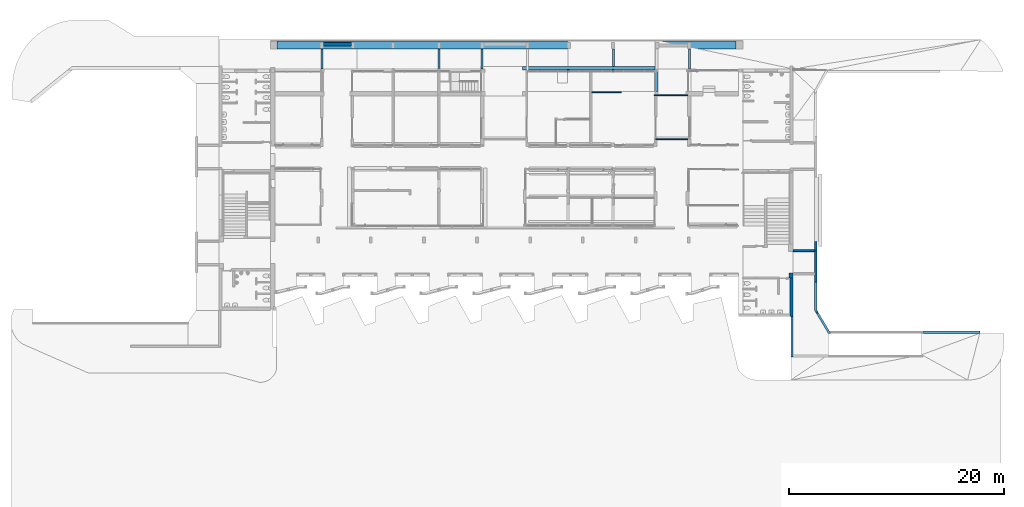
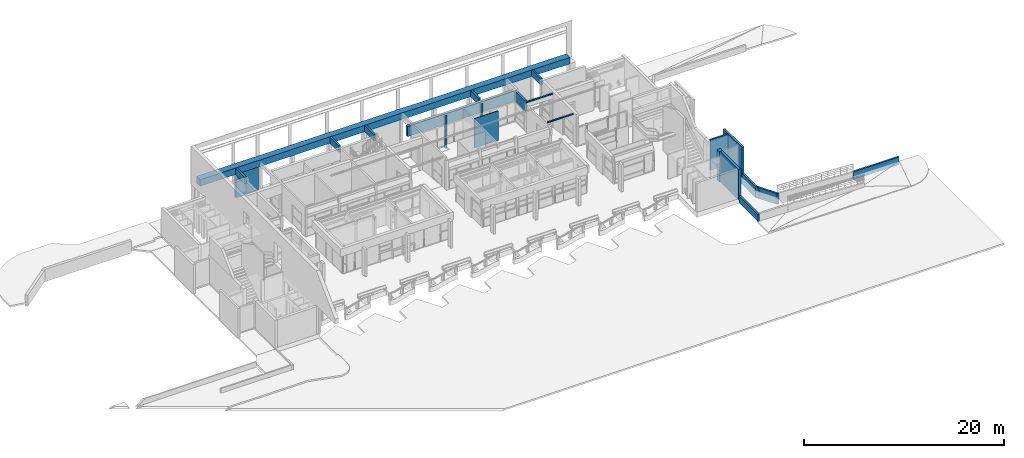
# One storey, part 69 of 117: 22 walls.
"""IFC4 building model written with IfcOpenShell, lengths in metres."""

import ifcopenshell
import ifcopenshell.guid

model = None  # the IFC model being written
_history = None  # IfcOwnerHistory: only IFC2X3 demands one
_inside = {}  # id of a spatial element -> (the spatial element, [elements in it])
_under = {}  # id of a project, library or spatial element -> (it, [spatial elements below it])
_declared = {}  # id of a project -> (the project, [libraries it declares])
_typed = {}  # id of a type object -> (the type object, [elements of that type])
_made_of = {}  # id of a material, layer set ... -> (it, [elements and type objects made of it])


def new_model(schema):
    """Start an empty IFC model of exactly this schema.

    Asked for "IFC4X3", IfcOpenShell would pick the latest addendum, in which some entities
    have other attributes; the version numbers below select the first issue.
    IFC2X3 requires an IfcOwnerHistory on every rooted entity: one is made here for all.
    """
    global model, _history
    if schema == "IFC4X3":
        model = ifcopenshell.file(schema_version=(4, 3, 0, 0))
    else:
        model = ifcopenshell.file(schema=schema)
    _inside.clear()
    _under.clear()
    _declared.clear()
    _typed.clear()
    _made_of.clear()
    _history = None
    if model.schema == "IFC2X3":
        org = make("IfcOrganization", Name="unknown")
        user = make(
            "IfcPersonAndOrganization",
            ThePerson=make("IfcPerson", FamilyName="unknown"),
            TheOrganization=org,
        )
        app = make(
            "IfcApplication",
            ApplicationDeveloper=org,
            Version="unknown",
            ApplicationFullName="unknown",
            ApplicationIdentifier="unknown",
        )
        _history = make(
            "IfcOwnerHistory",
            OwningUser=user,
            OwningApplication=app,
            ChangeAction="ADDED",
            CreationDate=0,
        )
    return model


def make(cls, **values):
    """One entity of the class cls with the attributes given. An attribute that is None is left unset."""
    return model.create_entity(
        cls, **{name: value for name, value in values.items() if value is not None}
    )


def entity(cls, *values):
    """Any entity or typed value of the class cls, its attributes in the order of the schema. None: left unset."""
    e = model.create_entity(cls)
    for i, value in enumerate(values):
        if value is not None:
            e[i] = value
    return e


def rooted(cls, **values):
    """An entity with a GlobalId (a new one), such as an element, a storey or a relation."""
    return make(cls, GlobalId=ifcopenshell.guid.new(), OwnerHistory=_history, **values)


def si_unit(unit_type, name, prefix=None):
    """IfcSIUnit, for example si_unit("LENGTHUNIT", "METRE", prefix="MILLI")."""
    return make("IfcSIUnit", UnitType=unit_type, Prefix=prefix, Name=name)


def converted_unit(unit_type, name, factor, base, dimensions=None, offset=None):
    """IfcConversionBasedUnit, such as the inch: factor (a typed value) times the base unit."""
    return make(
        "IfcConversionBasedUnit"
        if offset is None
        else "IfcConversionBasedUnitWithOffset",
        ConversionOffset=offset,
        Dimensions=None
        if dimensions is None
        else entity("IfcDimensionalExponents", *dimensions),
        UnitType=unit_type,
        Name=name,
        ConversionFactor=make(
            "IfcMeasureWithUnit", ValueComponent=factor, UnitComponent=base
        ),
    )


def derived_unit(unit_type, elements):
    """IfcDerivedUnit: a product of units, each with its exponent."""
    return make(
        "IfcDerivedUnit",
        Elements=[
            make("IfcDerivedUnitElement", Unit=unit, Exponent=power)
            for unit, power in elements
        ],
        UnitType=unit_type,
    )


def assignment(units):
    """IfcUnitAssignment: the units of a project."""
    return None if units is None else make("IfcUnitAssignment", Units=units)


def point(xyz):
    """IfcCartesianPoint."""
    return None if xyz is None else make("IfcCartesianPoint", Coordinates=xyz)


def direction(xyz):
    """IfcDirection."""
    return None if xyz is None else make("IfcDirection", DirectionRatios=xyz)


def frame(location, z_axis=None, x_axis=None):
    """IfcAxis2Placement3D, a coordinate frame: its origin and axes. An axis left out is left unset."""
    return make(
        "IfcAxis2Placement3D",
        Location=point(location),
        Axis=direction(z_axis),
        RefDirection=direction(x_axis),
    )


def origin():
    """The frame at (0, 0, 0) with its axes left unset."""
    return frame((0.0, 0.0, 0.0))


def place(relative_to, where):
    """IfcLocalPlacement: puts the frame where relative to a parent placement (None: the world)."""
    return make(
        "IfcLocalPlacement", PlacementRelTo=relative_to, RelativePlacement=where
    )


def context(
    kind, dimensions, precision=None, world=None, true_north=None, identifier=None
):
    """IfcGeometricRepresentationContext, for example the 3D "Model" context."""
    return make(
        "IfcGeometricRepresentationContext",
        ContextIdentifier=identifier,
        ContextType=kind,
        CoordinateSpaceDimension=dimensions,
        Precision=precision,
        WorldCoordinateSystem=world,
        TrueNorth=true_north,
    )


def subcontext(parent, identifier, kind, view, scale=None):
    """IfcGeometricRepresentationSubContext, for example "Body" below "Model"."""
    return make(
        "IfcGeometricRepresentationSubContext",
        ContextIdentifier=identifier,
        ContextType=kind,
        ParentContext=parent,
        TargetScale=scale,
        TargetView=view,
    )


def project(units=None, contexts=None):
    """IfcProject with its units and contexts."""
    return rooted(
        "IfcProject",
        Name="project",
        RepresentationContexts=contexts,
        UnitsInContext=assignment(units),
    )


def spatial(cls, under=None, at=None, **own):
    """A site, building, storey or space (cls), placed at a placement, below another one or the project."""
    s = rooted(cls, ObjectPlacement=at, **own)
    if under is not None:
        _under.setdefault(under.id(), (under, []))[1].append(s)
    return s


def point_list(points):
    """IfcCartesianPointList2D or 3D."""
    cls = (
        "IfcCartesianPointList2D" if len(points[0]) == 2 else "IfcCartesianPointList3D"
    )
    return make(cls, CoordList=points)


def indexed_curve(points, segments=None, self_intersect=None):
    """IfcIndexedPolyCurve: lines and arcs through numbered points (the first is 1)."""
    return make(
        "IfcIndexedPolyCurve",
        Points=point_list(points),
        Segments=segments,
        SelfIntersect=self_intersect,
    )


def outline(outer, holes=None, kind="AREA"):
    """IfcArbitraryClosedProfileDef: a profile drawn as a closed curve; with holes, ...WithVoids."""
    if holes is None:
        return make("IfcArbitraryClosedProfileDef", ProfileType=kind, OuterCurve=outer)
    return make(
        "IfcArbitraryProfileDefWithVoids",
        ProfileType=kind,
        OuterCurve=outer,
        InnerCurves=holes,
    )


def extrude(swept, where, along, depth):
    """IfcExtrudedAreaSolid: the profile swept, set in the frame where, extruded along a direction by depth."""
    return make(
        "IfcExtrudedAreaSolid",
        SweptArea=swept,
        Position=where,
        ExtrudedDirection=direction(along),
        Depth=depth,
    )


def shape(context_of_items, identifier, shape_type, items):
    """IfcShapeRepresentation: the items that make up one representation, for example the "Body"."""
    return make(
        "IfcShapeRepresentation",
        ContextOfItems=context_of_items,
        RepresentationIdentifier=identifier,
        RepresentationType=shape_type,
        Items=items,
    )


def material(Name=None, Category=None):
    """IfcMaterial."""
    return make("IfcMaterial", Name=Name, Category=Category)


def made_of(thing, what):
    """Note that an element or type object is made of a material, layer set ...; save() writes the relation."""
    if what is not None:
        _made_of.setdefault(what.id(), (what, []))[1].append(thing)
    return thing


def type_object(cls, material=None, **own):
    """A type object (cls), such as IfcWallType, which elements share."""
    return made_of(rooted(cls, **own), material)


def element(
    cls,
    number,
    at=None,
    inside=None,
    cuts=None,
    type_object=None,
    material=None,
    context=None,
    identifier="Body",
    shape_type=None,
    held_by="IfcProductDefinitionShape",
    body=None,
    shapes=None,
    **own,
):
    """One element of the class cls, such as IfcWall. Its Tag is "e" and its number.

    at: its placement. inside: the storey or other place that contains it. cuts: it is an
    opening in that element (IfcRelVoidsElement). A single representation is given by context,
    identifier, shape_type and body (its items); several are given by shapes. held_by: the class
    of the entity that holds the representations. save() writes the other relations.
    """
    e = rooted(cls, Tag="e%d" % number, ObjectPlacement=at, **own)
    if body is not None:
        shapes = [shape(context, identifier, shape_type, body)]
    if shapes is not None:
        e.Representation = make(held_by, Representations=shapes)
    if inside is not None:
        _inside.setdefault(inside.id(), (inside, []))[1].append(e)
    if cuts is not None:
        rooted(
            "IfcRelVoidsElement", RelatingBuildingElement=cuts, RelatedOpeningElement=e
        )
    if type_object is not None:
        _typed.setdefault(type_object.id(), (type_object, []))[1].append(e)
    return made_of(e, material)


def aggregate(whole, parts):
    """IfcRelAggregates: a whole, such as a stair, and the parts it consists of."""
    return rooted("IfcRelAggregates", RelatingObject=whole, RelatedObjects=parts)


def save(model, path):
    """Write the relations noted so far, then the file.

    IfcRelAggregates (storeys below a building ...), IfcRelContainedInSpatialStructure (elements
    in a storey), IfcRelDefinesByType, IfcRelAssociatesMaterial and IfcRelDeclares: one each for
    every whole, place, type object, material and project.
    """
    for whole, parts in _under.values():
        aggregate(whole, parts)
    for where, things in _inside.values():
        rooted(
            "IfcRelContainedInSpatialStructure",
            RelatedElements=things,
            RelatingStructure=where,
        )
    for kind, things in _typed.values():
        rooted("IfcRelDefinesByType", RelatedObjects=things, RelatingType=kind)
    for what, things in _made_of.values():
        rooted("IfcRelAssociatesMaterial", RelatedObjects=things, RelatingMaterial=what)
    for by, libraries in _declared.values():
        rooted("IfcRelDeclares", RelatingContext=by, RelatedDefinitions=libraries)
    model.write(path)


model = new_model("IFC4")

# Units and contexts
model_context = context("Model", 3, precision=1e-05, world=origin(), true_north=direction((6.123031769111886e-17, 1.0)))
body_context = subcontext(model_context, "Body", "Model", "MODEL_VIEW")
ifc_project = project(units=[si_unit("LENGTHUNIT", "METRE"), si_unit("AREAUNIT", "SQUARE_METRE"), si_unit("VOLUMEUNIT", "CUBIC_METRE"), converted_unit("PLANEANGLEUNIT", "DEGREE", entity("IfcRatioMeasure", 0.017453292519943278), si_unit("PLANEANGLEUNIT", "RADIAN"), dimensions=[0, 0, 0, 0, 0, 0, 0]), si_unit("MASSUNIT", "GRAM", prefix="KILO"), derived_unit("MASSDENSITYUNIT", [(si_unit("MASSUNIT", "GRAM", prefix="KILO"), 1), (si_unit("LENGTHUNIT", "METRE"), -3)]), derived_unit("MOMENTOFINERTIAUNIT", [(si_unit("LENGTHUNIT", "METRE"), 4)]), si_unit("TIMEUNIT", "SECOND"), si_unit("FREQUENCYUNIT", "HERTZ"), si_unit("THERMODYNAMICTEMPERATUREUNIT", "DEGREE_CELSIUS"), derived_unit("THERMALTRANSMITTANCEUNIT", [(si_unit("MASSUNIT", "GRAM", prefix="KILO"), 1), (si_unit("THERMODYNAMICTEMPERATUREUNIT", "KELVIN"), -1), (si_unit("TIMEUNIT", "SECOND"), -3)]), derived_unit("VOLUMETRICFLOWRATEUNIT", [(si_unit("LENGTHUNIT", "METRE"), 3), (si_unit("TIMEUNIT", "SECOND"), -1)]), derived_unit("MASSFLOWRATEUNIT", [(si_unit("MASSUNIT", "GRAM", prefix="KILO"), 1), (si_unit("TIMEUNIT", "SECOND"), -1)]), derived_unit("ROTATIONALFREQUENCYUNIT", [(si_unit("TIMEUNIT", "SECOND"), -1)]), si_unit("ELECTRICCURRENTUNIT", "AMPERE"), si_unit("ELECTRICVOLTAGEUNIT", "VOLT"), si_unit("POWERUNIT", "WATT"), si_unit("FORCEUNIT", "NEWTON", prefix="KILO"), si_unit("ILLUMINANCEUNIT", "LUX"), si_unit("LUMINOUSFLUXUNIT", "LUMEN"), si_unit("LUMINOUSINTENSITYUNIT", "CANDELA"), derived_unit("USERDEFINED", [(si_unit("MASSUNIT", "GRAM", prefix="KILO"), -1), (si_unit("LENGTHUNIT", "METRE"), -2), (si_unit("TIMEUNIT", "SECOND"), 3), (si_unit("LUMINOUSFLUXUNIT", "LUMEN"), 1)]), derived_unit("SOUNDPOWERUNIT", [(si_unit("MASSUNIT", "GRAM", prefix="KILO"), 1), (si_unit("LENGTHUNIT", "METRE"), 2), (si_unit("TIMEUNIT", "SECOND"), -3)]), derived_unit("SOUNDPRESSUREUNIT", [(si_unit("MASSUNIT", "GRAM", prefix="KILO"), 1), (si_unit("LENGTHUNIT", "METRE"), -1), (si_unit("TIMEUNIT", "SECOND"), -2)]), derived_unit("LINEARVELOCITYUNIT", [(si_unit("LENGTHUNIT", "METRE"), 1), (si_unit("TIMEUNIT", "SECOND"), -1)]), si_unit("PRESSUREUNIT", "PASCAL"), derived_unit("USERDEFINED", [(si_unit("LENGTHUNIT", "METRE"), -2), (si_unit("MASSUNIT", "GRAM", prefix="KILO"), 1), (si_unit("TIMEUNIT", "SECOND"), -2)]), derived_unit("LINEARFORCEUNIT", [(si_unit("MASSUNIT", "GRAM", prefix="KILO"), 1), (si_unit("LENGTHUNIT", "METRE"), 1), (si_unit("TIMEUNIT", "SECOND"), -2), (si_unit("LENGTHUNIT", "METRE"), -1)]), derived_unit("PLANARFORCEUNIT", [(si_unit("MASSUNIT", "GRAM", prefix="KILO"), 1), (si_unit("LENGTHUNIT", "METRE"), 1), (si_unit("TIMEUNIT", "SECOND"), -2), (si_unit("LENGTHUNIT", "METRE"), -2)])], contexts=[model_context])

# Site, building, storey
site_placement = place(None, origin())
site = spatial("IfcSite", under=ifc_project, at=site_placement, Name="Superficie", CompositionType="ELEMENT")
building_placement = place(site_placement, origin())
building = spatial("IfcBuilding", under=site, at=building_placement, CompositionType="ELEMENT")
storey_placement = place(building_placement, origin())
storey = spatial("IfcBuildingStorey", under=building, at=storey_placement, Name="Nivel 0", CompositionType="ELEMENT", Elevation=0.0)

# Walls
ifc_material = material(Name="Muro por defecto", Category="Varios")
wall_type_1 = type_object("IfcWallType", Name="Muro básico:Por defecto - 20 cm", PredefinedType="STANDARD")
wall_1_placement = place(storey_placement, frame((25.576799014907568, -10.214170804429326, -0.5599999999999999), z_axis=(0.0, 0.0, 1.0), x_axis=(0.0, -1.0, 0.0)))
element("IfcWall", 1, at=wall_1_placement, inside=storey, type_object=wall_type_1, material=ifc_material, Name="Muro básico:Por defecto - 20 cm", ObjectType="Muro básico:Por defecto - 20 cm", PredefinedType="NOTDEFINED", context=body_context, shape_type="SweptSolid", body=[
    extrude(outline(indexed_curve([(3.7499999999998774, 0.09999999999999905), (-1.1867037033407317e-16, 0.09999999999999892), (1.1867037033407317e-16, -0.09999999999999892), (3.7499999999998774, -0.09999999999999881), (3.7499999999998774, 0.09999999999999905)], self_intersect=False)), origin(), (0.0, 0.0, 1.0), 0.8825574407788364),
])
wall_2_placement = place(storey_placement, frame((27.796799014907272, -6.979140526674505, -1.0053247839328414), z_axis=(0.0, 0.0, 1.0), x_axis=(0.0, -1.0, 0.0)))
element("IfcWall", 2, at=wall_2_placement, inside=storey, type_object=wall_type_1, material=ifc_material, Name="Muro básico:Por defecto - 20 cm", ObjectType="Muro básico:Por defecto - 20 cm", PredefinedType="NOTDEFINED", context=body_context, shape_type="SweptSolid", body=[
    extrude(outline(indexed_curve([(2.6675643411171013, -0.10000000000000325), (3.0027875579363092, 0.09999999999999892), (2.6124356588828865, 0.09999999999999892), (0.0, 0.09999999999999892), (0.0, -0.10000000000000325), (2.6675643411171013, -0.10000000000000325)], self_intersect=False)), origin(), (0.0, 0.0, 1.0), 1.327882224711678),
])
wall_3_placement = place(storey_placement, frame((27.810921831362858, -9.642812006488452, -1.0053247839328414), z_axis=(0.0, 0.0, 1.0), x_axis=(0.5123582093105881, -0.8587718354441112, 0.0)))
element("IfcWall", 3, at=wall_3_placement, inside=storey, type_object=wall_type_1, material=ifc_material, Name="Muro básico:Por defecto - 20 cm", ObjectType="Muro básico:Por defecto - 20 cm", PredefinedType="NOTDEFINED", context=body_context, shape_type="SweptSolid", body=[
    extrude(outline(indexed_curve([(2.4105622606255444, -0.09999999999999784), (2.529885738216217, 0.10000000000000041), (-8.459899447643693e-17, 0.10000000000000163), (0.3352232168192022, -0.09999999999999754), (2.4105622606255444, -0.09999999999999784)], self_intersect=False)), origin(), (0.0, 0.0, 1.0), 1.327882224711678),
])
wall_4_placement = place(storey_placement, frame((43.08180747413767, -11.664170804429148, -1.0796383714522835), z_axis=(0.0, 0.0, 1.0), x_axis=(-1.0, 0.0, 0.0)))
element("IfcWall", 4, at=wall_4_placement, inside=storey, type_object=wall_type_1, material=ifc_material, Name="Muro básico:Por defecto - 20 cm", ObjectType="Muro básico:Por defecto - 20 cm", PredefinedType="NOTDEFINED", context=body_context, shape_type="SweptSolid", body=[
    extrude(outline(indexed_curve([(5.255700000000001, 0.09999999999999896), (-3.302882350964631e-16, 0.09999999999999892), (3.302882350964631e-16, -0.09999999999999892), (5.255700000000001, -0.0999999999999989), (5.255700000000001, 0.09999999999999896)], self_intersect=False)), origin(), (0.0, 0.0, 1.0), 0.9489000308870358),
])
wall_5_placement = place(storey_placement, frame((-18.24320098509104, 14.740829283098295, 3.12), z_axis=(0.0, 0.0, 1.0), x_axis=(0.0, -1.0, 0.0)))
element("IfcWall", 5, at=wall_5_placement, inside=storey, type_object=wall_type_1, material=ifc_material, Name="Muro básico:Por defecto - 20 cm", ObjectType="Muro básico:Por defecto - 20 cm", PredefinedType="NOTDEFINED", context=body_context, shape_type="SweptSolid", body=[
    extrude(outline(indexed_curve([(1.869999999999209, 0.10000000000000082), (-1.0096663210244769e-16, 0.10000000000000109), (1.0096663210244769e-16, -0.10000000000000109), (1.869999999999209, -0.10000000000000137), (1.869999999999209, 0.10000000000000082)], self_intersect=False)), origin(), (0.0, 0.0, 1.0), 0.793109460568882),
])
wall_6_placement = place(storey_placement, frame((-7.332735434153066, 14.740829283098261, 3.12), z_axis=(0.0, 0.0, 1.0), x_axis=(0.0, -1.0, 0.0)))
element("IfcWall", 6, at=wall_6_placement, inside=storey, type_object=wall_type_1, material=ifc_material, Name="Muro básico:Por defecto - 20 cm", ObjectType="Muro básico:Por defecto - 20 cm", PredefinedType="NOTDEFINED", context=body_context, shape_type="SweptSolid", body=[
    extrude(outline(indexed_curve([(1.822870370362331, 0.09999999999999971), (-1.0323489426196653e-16, 0.1), (1.0323489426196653e-16, -0.1), (1.822870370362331, -0.1000000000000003), (1.822870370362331, 0.09999999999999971)], self_intersect=False)), origin(), (0.0, 0.0, 1.0), 0.793109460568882),
])
wall_7_placement = place(storey_placement, frame((-3.3132009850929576, 14.740829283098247, 3.12), z_axis=(0.0, 0.0, 1.0), x_axis=(0.0, -1.0, 0.0)))
element("IfcWall", 7, at=wall_7_placement, inside=storey, type_object=wall_type_1, material=ifc_material, Name="Muro básico:Por defecto - 20 cm", ObjectType="Muro básico:Por defecto - 20 cm", PredefinedType="NOTDEFINED", context=body_context, shape_type="SweptSolid", body=[
    extrude(outline(indexed_curve([(1.8699999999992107, 0.10000000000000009), (-1.4953668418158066e-16, 0.1), (1.4953668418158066e-16, -0.1), (1.8699999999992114, -0.09999999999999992), (1.8699999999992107, 0.10000000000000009)], self_intersect=False)), origin(), (0.0, 0.0, 1.0), 0.793109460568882),
])
wall_8_placement = place(storey_placement, frame((8.946552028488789, 14.740829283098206, 3.12), z_axis=(0.0, 0.0, 1.0), x_axis=(0.0, -1.0, 0.0)))
element("IfcWall", 8, at=wall_8_placement, inside=storey, type_object=wall_type_1, material=ifc_material, Name="Muro básico:Por defecto - 20 cm", ObjectType="Muro básico:Por defecto - 20 cm", PredefinedType="NOTDEFINED", context=body_context, shape_type="SweptSolid", body=[
    extrude(outline(indexed_curve([(1.6353703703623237, 0.09999999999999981), (-1.1962934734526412e-16, 0.1), (1.1962934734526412e-16, -0.1), (1.6353703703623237, -0.10000000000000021), (1.6353703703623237, 0.09999999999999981)], self_intersect=False)), origin(), (0.0, 0.0, 1.0), 0.793109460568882),
])
wall_9_placement = place(storey_placement, frame((16.006799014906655, 14.740829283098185, 3.12), z_axis=(0.0, 0.0, 1.0), x_axis=(0.0, -1.0, 0.0)))
element("IfcWall", 9, at=wall_9_placement, inside=storey, type_object=wall_type_1, material=ifc_material, Name="Muro básico:Por defecto - 20 cm", ObjectType="Muro básico:Por defecto - 20 cm", PredefinedType="NOTDEFINED", context=body_context, shape_type="SweptSolid", body=[
    extrude(outline(indexed_curve([(1.8562808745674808, 0.09999999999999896), (-1.1872960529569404e-16, 0.09999999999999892), (1.1872960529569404e-16, -0.09999999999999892), (1.8562808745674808, -0.0999999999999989), (1.8562808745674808, 0.09999999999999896)], self_intersect=False)), origin(), (0.0, 0.0, 1.0), 0.793109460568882),
])
wall_type_2 = type_object("IfcWallType", Name="Muro básico:Por defecto - 40 cm 2", PredefinedType="STANDARD")
wall_10_placement = place(storey_placement, frame((25.47679901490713, -6.134140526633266, -0.13845392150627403), z_axis=(0.0, 0.0, 1.0), x_axis=(0.0, -1.0, 0.0)))
element("IfcWall", 10, at=wall_10_placement, inside=storey, type_object=wall_type_2, material=ifc_material, Name="Muro básico:Por defecto - 40 cm 2", ObjectType="Muro básico:Por defecto - 40 cm 2", PredefinedType="NOTDEFINED", context=body_context, shape_type="SweptSolid", body=[
    extrude(outline(indexed_curve([(0.4550302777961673, 0.19999999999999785), (0.0, 0.19999999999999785), (0.0, -0.19999999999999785), (0.4550302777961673, -0.19999999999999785), (0.4550302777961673, 0.19999999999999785)], self_intersect=False)), origin(), (0.0, 0.0, 1.0), 3.7384539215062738),
])
wall_type_3 = type_object("IfcWallType", Name="Muro básico:Por defecto - 25 cm 2", PredefinedType="STANDARD")
wall_11_placement = place(storey_placement, frame((12.949771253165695, 10.770829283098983, 2.35), z_axis=(0.0, 0.0, 1.0), x_axis=(0.0, 1.0, 0.0)))
element("IfcWall", 11, at=wall_11_placement, inside=storey, type_object=wall_type_3, material=ifc_material, Name="Muro básico:Por defecto - 25 cm 2", ObjectType="Muro básico:Por defecto - 25 cm 2", PredefinedType="NOTDEFINED", context=body_context, shape_type="SweptSolid", body=[
    extrude(outline(indexed_curve([(2.1137191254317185, 0.12499999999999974), (-1.280760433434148e-16, 0.12499999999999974), (1.280760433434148e-16, -0.12499999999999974), (2.1137191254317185, -0.12499999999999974), (2.1137191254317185, 0.12499999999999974)], self_intersect=False)), origin(), (0.0, 0.0, 1.0), 1.2499999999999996),
])
wall_type_4 = type_object("IfcWallType", Name="Muro básico:Por defecto - 30 cm", PredefinedType="STANDARD")
wall_12_placement = place(storey_placement, frame((25.526799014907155, -10.214170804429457, -0.1392296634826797), z_axis=(0.0, 0.0, 1.0), x_axis=(0.0, 1.0, 0.0)))
element("IfcWall", 12, at=wall_12_placement, inside=storey, type_object=wall_type_4, material=ifc_material, Name="Muro básico:Por defecto - 30 cm", ObjectType="Muro básico:Por defecto - 30 cm", PredefinedType="NOTDEFINED", context=body_context, shape_type="SweptSolid", body=[
    extrude(outline(indexed_curve([(3.625000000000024, 0.15000000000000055), (0.0, 0.15000000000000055), (0.0, -0.15000000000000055), (3.625000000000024, -0.15000000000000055), (3.625000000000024, 0.15000000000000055)], self_intersect=False)), origin(), (0.0, 0.0, 1.0), 3.7392296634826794),
])
wall_13_placement = place(storey_placement, frame((0.4397712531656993, 12.955458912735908, 2.35)))
element("IfcWall", 13, at=wall_13_placement, inside=storey, type_object=wall_type_4, material=ifc_material, Name="Muro básico:Por defecto - 30 cm", ObjectType="Muro básico:Por defecto - 30 cm", PredefinedType="NOTDEFINED", context=body_context, shape_type="SweptSolid", body=[
    extrude(outline(indexed_curve([(12.352027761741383, 0.15000000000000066), (-4.746144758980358e-16, 0.15000000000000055), (4.746144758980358e-16, -0.15000000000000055), (12.352027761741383, -0.15000000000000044), (12.352027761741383, 0.15000000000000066)], self_intersect=False)), origin(), (0.0, 0.0, 1.0), 1.2499999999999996),
])
wall_14_placement = place(storey_placement, frame((-18.09320098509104, 15.185458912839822, 0.0)))
element("IfcWall", 14, at=wall_14_placement, inside=storey, type_object=wall_type_4, material=ifc_material, Name="Muro básico:Por defecto - 30 cm", ObjectType="Muro básico:Por defecto - 30 cm", PredefinedType="NOTDEFINED", context=body_context, shape_type="SweptSolid", body=[
    extrude(outline(indexed_curve([(2.589999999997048, 0.15000000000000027), (-4.848658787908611e-16, 0.15000000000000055), (4.848658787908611e-16, -0.15000000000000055), (2.589999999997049, -0.15000000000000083), (2.589999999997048, 0.15000000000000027)], self_intersect=False)), origin(), (0.0, 0.0, 1.0), 3.119999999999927),
])
wall_type_5 = type_object("IfcWallType", Name="Muro básico:Por defecto - 18 cm 2", PredefinedType="STANDARD")
wall_15_placement = place(storey_placement, frame((8.891552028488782, 12.555458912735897, -0.4035506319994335), z_axis=(0.0, 0.0, 1.0), x_axis=(0.0, 1.0, 0.0)))
element("IfcWall", 15, at=wall_15_placement, inside=storey, type_object=wall_type_5, material=ifc_material, Name="Muro básico:Por defecto - 18 cm 2", ObjectType="Muro básico:Por defecto - 18 cm 2", PredefinedType="NOTDEFINED", context=body_context, shape_type="SweptSolid", body=[
    extrude(outline(indexed_curve([(0.24999999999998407, 0.09000000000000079), (-2.436451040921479e-16, 0.09000000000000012), (2.436451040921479e-16, -0.09000000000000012), (0.24999999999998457, -0.08999999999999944), (0.24999999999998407, 0.09000000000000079)], self_intersect=False)), origin(), (0.0, 0.0, 1.0), 4.003550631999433),
])
wall_16_placement = place(storey_placement, frame((4.73155202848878, 12.555458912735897, -0.4), z_axis=(0.0, 0.0, 1.0), x_axis=(0.0, 1.0, 0.0)))
element("IfcWall", 16, at=wall_16_placement, inside=storey, type_object=wall_type_5, material=ifc_material, Name="Muro básico:Por defecto - 18 cm 2", ObjectType="Muro básico:Por defecto - 18 cm 2", PredefinedType="NOTDEFINED", context=body_context, shape_type="SweptSolid", body=[
    extrude(outline(indexed_curve([(0.24999999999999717, 0.09), (-1.503025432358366e-16, 0.09000000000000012), (1.503025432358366e-16, -0.09000000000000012), (0.24999999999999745, -0.09000000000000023), (0.24999999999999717, 0.09)], self_intersect=False)), origin(), (0.0, 0.0, 1.0), 3.9999999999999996),
])
wall_17_placement = place(storey_placement, frame((27.67679901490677, -4.0491405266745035, -0.32281673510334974), z_axis=(0.0, 0.0, 1.0), x_axis=(-1.0, 0.0, 0.0)))
element("IfcWall", 17, at=wall_17_placement, inside=storey, type_object=wall_type_5, material=ifc_material, Name="Muro básico:Por defecto - 18 cm 2", ObjectType="Muro básico:Por defecto - 18 cm 2", PredefinedType="NOTDEFINED", context=body_context, shape_type="SweptSolid", body=[
    extrude(outline(indexed_curve([(2.019999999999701, 0.09000000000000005), (2.9237412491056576e-16, 0.09000000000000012), (-2.9237412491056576e-16, -0.09000000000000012), (2.0199999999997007, -0.09000000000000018), (2.019999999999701, 0.09000000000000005)], self_intersect=False)), origin(), (0.0, 0.0, 1.0), 3.7228167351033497),
])
wall_type_6 = type_object("IfcWallType", Name="Muro básico:Por defecto - 10 cm", PredefinedType="STANDARD")
wall_18_placement = place(storey_placement, frame((15.846799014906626, 6.3267502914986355, 3.599999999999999), z_axis=(0.0, 0.0, 1.0), x_axis=(-1.0, 0.0, 0.0)))
element("IfcWall", 18, at=wall_18_placement, inside=storey, type_object=wall_type_6, material=ifc_material, Name="Muro básico:Por defecto - 10 cm", ObjectType="Muro básico:Por defecto - 10 cm", PredefinedType="NOTDEFINED", context=body_context, shape_type="SweptSolid", body=[
    extrude(outline(indexed_curve([(2.964999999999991, 0.04999999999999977), (-1.694922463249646e-16, 0.04999999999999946), (1.694922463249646e-16, -0.04999999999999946), (2.964999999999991, -0.049999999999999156), (2.964999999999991, 0.04999999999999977)], self_intersect=False)), origin(), (0.0, 0.0, 1.0), 0.15000000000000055),
])
wall_19_placement = place(storey_placement, frame((15.846799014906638, 10.420829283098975, 3.599999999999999), z_axis=(0.0, 0.0, 1.0), x_axis=(-1.0, 0.0, 0.0)))
element("IfcWall", 19, at=wall_19_placement, inside=storey, type_object=wall_type_6, material=ifc_material, Name="Muro básico:Por defecto - 10 cm", ObjectType="Muro básico:Por defecto - 10 cm", PredefinedType="NOTDEFINED", context=body_context, shape_type="SweptSolid", body=[
    extrude(outline(indexed_curve([(3.1257783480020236, 0.049999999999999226), (-1.694922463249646e-16, 0.04999999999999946), (1.694922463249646e-16, -0.04999999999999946), (3.1257783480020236, -0.0499999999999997), (3.1257783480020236, 0.049999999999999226)], self_intersect=False)), origin(), (0.0, 0.0, 1.0), 0.14609040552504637),
])
wall_20_placement = place(storey_placement, frame((6.921552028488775, 10.691739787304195, 0.0)))
element("IfcWall", 20, at=wall_20_placement, inside=storey, type_object=wall_type_6, material=ifc_material, Name="Muro básico:Por defecto - 10 cm", ObjectType="Muro básico:Por defecto - 10 cm", PredefinedType="NOTDEFINED", context=body_context, shape_type="SweptSolid", body=[
    extrude(outline(indexed_curve([(2.7499999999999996, 0.04999999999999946), (-1.5750794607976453e-16, 0.04999999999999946), (1.5750794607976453e-16, -0.04999999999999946), (2.7499999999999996, -0.04999999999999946), (2.7499999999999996, 0.04999999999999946)], self_intersect=False)), origin(), (0.0, 0.0, 1.0), 3.5999999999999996),
])
wall_type_7 = type_object("IfcWallType", Name="Muro básico:Por defecto - 22 cm 2", PredefinedType="STANDARD")
wall_21_placement = place(storey_placement, frame((27.78679901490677, -3.209140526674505, -1.0053247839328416), z_axis=(0.0, 0.0, 1.0), x_axis=(0.0, -1.0, 0.0)))
element("IfcWall", 21, at=wall_21_placement, inside=storey, type_object=wall_type_7, material=ifc_material, Name="Muro básico:Por defecto - 22 cm 2", ObjectType="Muro básico:Por defecto - 22 cm 2", PredefinedType="NOTDEFINED", context=body_context, shape_type="SweptSolid", body=[
    extrude(outline(indexed_curve([(3.77, 0.11000000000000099), (0.0, 0.11000000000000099), (0.0, -0.11000000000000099), (3.77, -0.11000000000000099), (3.77, 0.11000000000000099)], self_intersect=False)), origin(), (0.0, 0.0, 1.0), 4.505324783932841),
])
wall_type_8 = type_object("IfcWallType", Name="Muro básico:Por defecto - 73 cm 3", PredefinedType="STANDARD")
wall_22_placement = place(storey_placement, frame((20.35679901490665, 15.105829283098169, 3.1250907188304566), z_axis=(0.0, 0.0, 1.0), x_axis=(-1.0, 0.0, 0.0)))
element("IfcWall", 22, at=wall_22_placement, inside=storey, type_object=wall_type_8, material=ifc_material, Name="Muro básico:Por defecto - 73 cm 3", ObjectType="Muro básico:Por defecto - 73 cm 3", PredefinedType="NOTDEFINED", context=body_context, shape_type="SweptSolid", body=[
    extrude(outline(indexed_curve([(42.8, 0.3649999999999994), (-1.1828842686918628e-15, 0.3649999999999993), (1.1828842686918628e-15, -0.3649999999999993), (42.8, -0.36499999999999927), (42.8, 0.3649999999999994)], self_intersect=False)), origin(), (0.0, 0.0, 1.0), 0.7949092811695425),
])

save(model, "model.ifc")
